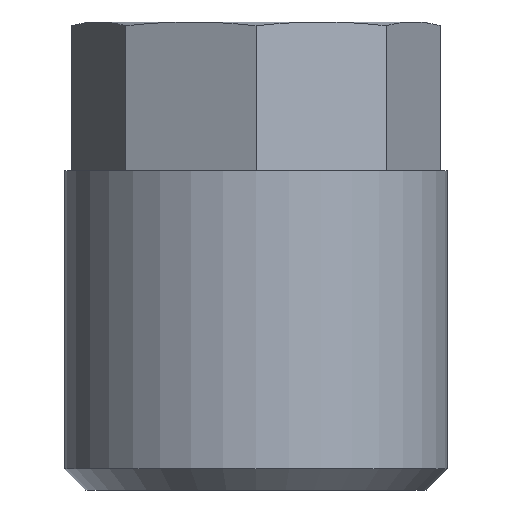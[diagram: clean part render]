
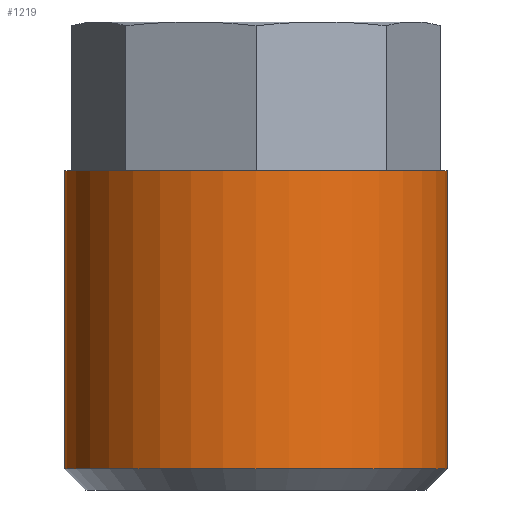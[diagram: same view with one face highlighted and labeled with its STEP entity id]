
A CAD part, front view. The second image highlights one B-rep face of the part: STEP entity #1219.
In plain terms, the highlighted cylindrical face has radius 4.5 mm (diameter 9 mm), a full revolution.
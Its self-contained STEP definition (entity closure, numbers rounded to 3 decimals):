
#586=CYLINDRICAL_SURFACE('',#1174,4.5);
#679=ORIENTED_EDGE('',*,*,#786,.F.);
#680=ORIENTED_EDGE('',*,*,#787,.T.);
#702=CIRCLE('',#1173,4.5);
#703=CIRCLE('',#1175,4.5);
#736=VERTEX_POINT('',#1105);
#737=VERTEX_POINT('',#1108);
#786=EDGE_CURVE('',#736,#736,#702,.T.);
#787=EDGE_CURVE('',#737,#737,#703,.T.);
#819=EDGE_LOOP('',(#679));
#820=EDGE_LOOP('',(#680));
#857=FACE_BOUND('',#819,.T.);
#858=FACE_BOUND('',#820,.T.);
#985=DIRECTION('',(0.,1.,0.));
#986=DIRECTION('',(0.,0.,-4.5));
#987=DIRECTION('',(0.,1.,0.));
#988=DIRECTION('',(1.,0.,0.));
#989=DIRECTION('',(0.,1.,0.));
#990=DIRECTION('',(0.,0.,4.5));
#1105=CARTESIAN_POINT('',(26.989,22.095,-4.5));
#1106=CARTESIAN_POINT('',(26.989,22.095,0.));
#1107=CARTESIAN_POINT('',(26.989,15.095,0.));
#1108=CARTESIAN_POINT('',(26.989,15.095,4.5));
#1109=CARTESIAN_POINT('',(26.989,15.095,0.));
#1173=AXIS2_PLACEMENT_3D('',#1106,#985,#986);
#1174=AXIS2_PLACEMENT_3D('',#1107,#987,#988);
#1175=AXIS2_PLACEMENT_3D('',#1109,#989,#990);
#1219=ADVANCED_FACE('',(#857,#858),#586,.T.);
